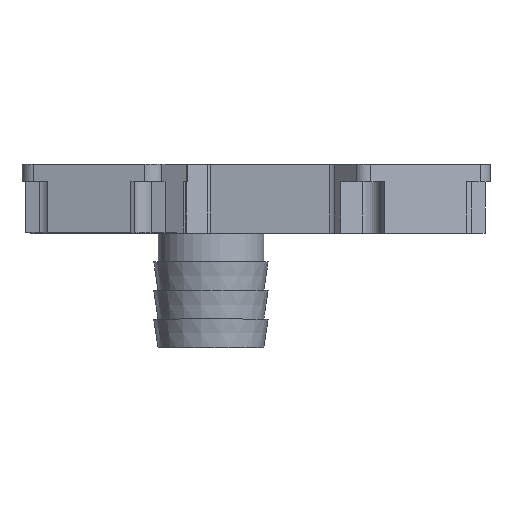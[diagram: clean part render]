
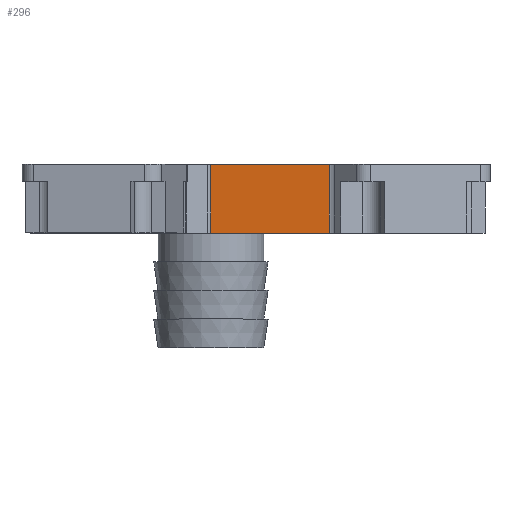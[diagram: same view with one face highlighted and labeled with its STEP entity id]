
A CAD part, top view. The second image highlights one B-rep face of the part: STEP entity #296.
In plain terms, the highlighted planar face has unit normal (-0.104, 0, 0.995).
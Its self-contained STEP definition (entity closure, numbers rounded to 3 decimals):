
#95=PLANE('',#4024);
#296=ADVANCED_FACE('',(#488),#95,.T.);
#488=FACE_OUTER_BOUND('',#698,.F.);
#698=EDGE_LOOP('',(#1159,#1160,#1161,#1162));
#1159=ORIENTED_EDGE('',*,*,#2451,.T.);
#1160=ORIENTED_EDGE('',*,*,#2525,.F.);
#1161=ORIENTED_EDGE('',*,*,#2484,.F.);
#1162=ORIENTED_EDGE('',*,*,#2526,.T.);
#2451=EDGE_CURVE('',#3545,#3546,#2869,.T.);
#2484=EDGE_CURVE('',#3520,#3521,#2890,.T.);
#2525=EDGE_CURVE('',#3521,#3546,#2915,.T.);
#2526=EDGE_CURVE('',#3520,#3545,#2916,.T.);
#2869=LINE('',#5963,#3214);
#2890=LINE('',#5996,#3235);
#2915=LINE('',#6037,#3260);
#2916=LINE('',#6038,#3261);
#3214=VECTOR('',#4589,20.772);
#3235=VECTOR('',#4634,20.772);
#3260=VECTOR('',#4691,12.);
#3261=VECTOR('',#4692,12.);
#3520=VERTEX_POINT('',#5428);
#3521=VERTEX_POINT('',#5429);
#3545=VERTEX_POINT('',#5453);
#3546=VERTEX_POINT('',#5454);
#4024=AXIS2_PLACEMENT_3D('',#6275,#5000,#5001);
#4589=DIRECTION('',(-0.995,0.,-0.104));
#4634=DIRECTION('',(-0.995,0.,-0.104));
#4691=DIRECTION('',(0.,-1.,0.));
#4692=DIRECTION('',(0.,-1.,0.));
#5000=DIRECTION('',(-0.104,0.,0.995));
#5001=DIRECTION('',(-0.995,0.,-0.104));
#5428=CARTESIAN_POINT('',(-29.549,324.227,-9.659));
#5429=CARTESIAN_POINT('',(-50.208,324.227,-11.829));
#5453=CARTESIAN_POINT('',(-29.549,312.227,-9.659));
#5454=CARTESIAN_POINT('',(-50.208,312.227,-11.829));
#5963=CARTESIAN_POINT('',(-29.549,312.227,-9.659));
#5996=CARTESIAN_POINT('',(-29.549,324.227,-9.659));
#6037=CARTESIAN_POINT('',(-50.208,324.227,-11.829));
#6038=CARTESIAN_POINT('',(-29.549,324.227,-9.659));
#6275=CARTESIAN_POINT('',(-29.343,324.435,-9.637));
